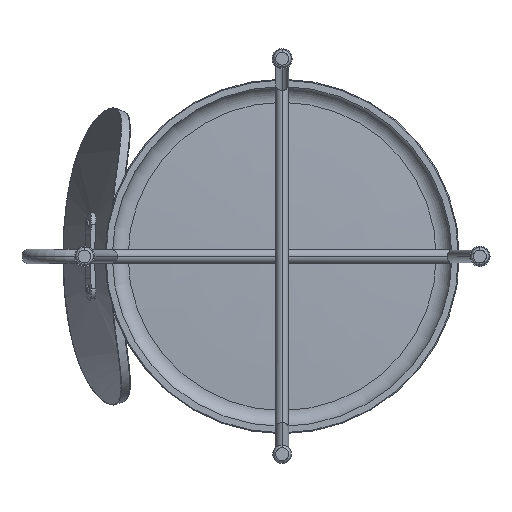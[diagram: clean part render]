
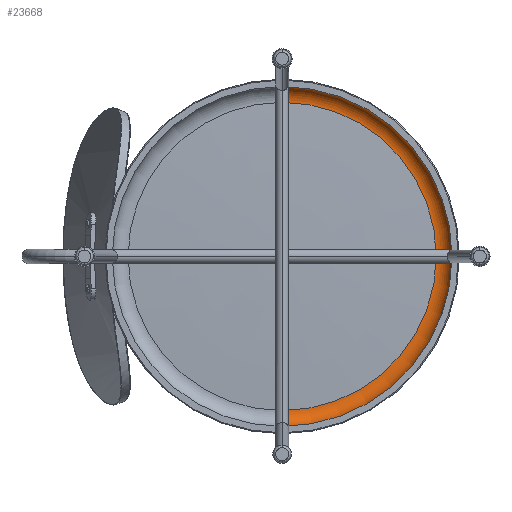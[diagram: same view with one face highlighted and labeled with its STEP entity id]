
A CAD part, front view. The second image highlights one B-rep face of the part: STEP entity #23668.
In plain terms, the highlighted toroidal (fillet/blend) face has major radius 168.241 mm and minor radius 17 mm.
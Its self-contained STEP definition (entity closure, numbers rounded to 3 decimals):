
#1320 = CARTESIAN_POINT ( 'NONE',  ( 0., -0.048, 167.332 ) ) ;
#1418 = AXIS2_PLACEMENT_3D ( 'NONE', #24776, #8946, #4793 ) ;
#2371 = ORIENTED_EDGE ( 'NONE', *, *, #5786, .T. ) ;
#2883 = CARTESIAN_POINT ( 'NONE',  ( 0., -0.048, 0. ) ) ;
#3139 = CIRCLE ( 'NONE', #18120, 17. ) ;
#3717 = TOROIDAL_SURFACE ( 'NONE', #13921, 168.241, 17. ) ;
#4776 = ORIENTED_EDGE ( 'NONE', *, *, #5057, .T. ) ;
#4793 = DIRECTION ( 'NONE',  ( 0., 0., -1. ) ) ;
#5028 = DIRECTION ( 'NONE',  ( 0., 1., 0. ) ) ;
#5057 = EDGE_CURVE ( 'NONE', #9016, #23116, #18978, .T. ) ;
#5786 = EDGE_CURVE ( 'NONE', #13477, #9016, #3139, .T. ) ;
#5848 = EDGE_CURVE ( 'NONE', #23882, #23116, #9549, .T. ) ;
#6604 = EDGE_CURVE ( 'NONE', #13477, #23882, #6710, .T. ) ;
#6710 = CIRCLE ( 'NONE', #7132, 184.5 ) ;
#7132 = AXIS2_PLACEMENT_3D ( 'NONE', #21499, #5028, #25528 ) ;
#8812 = DIRECTION ( 'NONE',  ( -1., 0., 0. ) ) ;
#8946 = DIRECTION ( 'NONE',  ( 1., 0., 0. ) ) ;
#9016 = VERTEX_POINT ( 'NONE', #1320 ) ;
#9549 = CIRCLE ( 'NONE', #1418, 17. ) ;
#11429 = CARTESIAN_POINT ( 'NONE',  ( 0., -12.058, 184.5 ) ) ;
#13477 = VERTEX_POINT ( 'NONE', #11429 ) ;
#13576 = DIRECTION ( 'NONE',  ( 0., 1., 0. ) ) ;
#13921 = AXIS2_PLACEMENT_3D ( 'NONE', #17284, #15399, #23824 ) ;
#15399 = DIRECTION ( 'NONE',  ( 0., 1., 0. ) ) ;
#17284 = CARTESIAN_POINT ( 'NONE',  ( 0., -17.024, 0. ) ) ;
#18120 = AXIS2_PLACEMENT_3D ( 'NONE', #22102, #8812, #23148 ) ;
#18978 = CIRCLE ( 'NONE', #24966, 167.332 ) ;
#19351 = DIRECTION ( 'NONE',  ( 0., 0., 1. ) ) ;
#21499 = CARTESIAN_POINT ( 'NONE',  ( 0., -12.058, 0. ) ) ;
#22102 = CARTESIAN_POINT ( 'NONE',  ( 0., -17.024, 168.241 ) ) ;
#22492 = CARTESIAN_POINT ( 'NONE',  ( 0., -12.058, -184.5 ) ) ;
#22594 = ORIENTED_EDGE ( 'NONE', *, *, #6604, .F. ) ;
#23116 = VERTEX_POINT ( 'NONE', #24049 ) ;
#23148 = DIRECTION ( 'NONE',  ( 0., 0., 1. ) ) ;
#23400 = ORIENTED_EDGE ( 'NONE', *, *, #5848, .F. ) ;
#23668 = ADVANCED_FACE ( 'NONE', ( #25843 ), #3717, .F. ) ;
#23824 = DIRECTION ( 'NONE',  ( 0., 0., 1. ) ) ;
#23882 = VERTEX_POINT ( 'NONE', #22492 ) ;
#24049 = CARTESIAN_POINT ( 'NONE',  ( 0., -0.048, -167.332 ) ) ;
#24776 = CARTESIAN_POINT ( 'NONE',  ( 0., -17.024, -168.241 ) ) ;
#24966 = AXIS2_PLACEMENT_3D ( 'NONE', #2883, #13576, #19351 ) ;
#25528 = DIRECTION ( 'NONE',  ( 0., 0., 1. ) ) ;
#25843 = FACE_OUTER_BOUND ( 'NONE', #26492, .T. ) ;
#26492 = EDGE_LOOP ( 'NONE', ( #23400, #22594, #2371, #4776 ) ) ;
